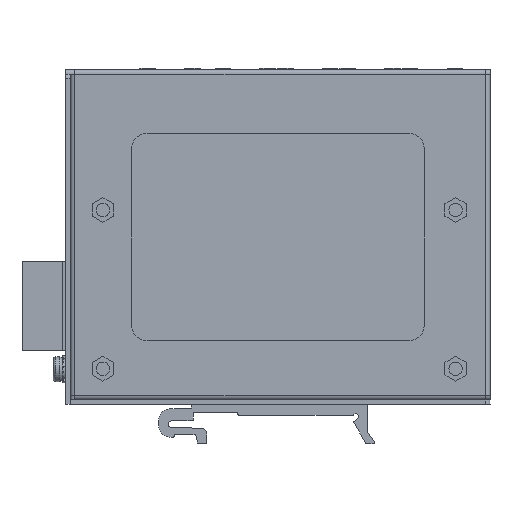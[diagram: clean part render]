
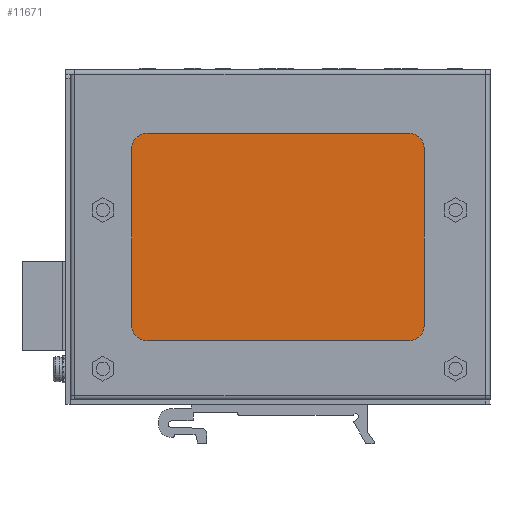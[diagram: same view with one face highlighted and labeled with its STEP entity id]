
A CAD part, front view. The second image highlights one B-rep face of the part: STEP entity #11671.
In plain terms, the highlighted planar face has unit normal (0, -1, 0).
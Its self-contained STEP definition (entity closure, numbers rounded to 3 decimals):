
#279 = PLANE('',#280);
#280 = AXIS2_PLACEMENT_3D('',#281,#282,#283);
#281 = CARTESIAN_POINT('',(-33.25,0.,22.75));
#282 = DIRECTION('',(0.,0.,1.));
#283 = DIRECTION('',(1.,0.,-0.));
#312 = CYLINDRICAL_SURFACE('',#313,3.5);
#313 = AXIS2_PLACEMENT_3D('',#314,#315,#316);
#314 = CARTESIAN_POINT('',(-29.75,7.67,19.25));
#315 = DIRECTION('',(0.,-1.,0.));
#316 = DIRECTION('',(0.,0.,1.));
#340 = PLANE('',#341);
#341 = AXIS2_PLACEMENT_3D('',#342,#343,#344);
#342 = CARTESIAN_POINT('',(-33.25,0.,-23.75));
#343 = DIRECTION('',(-1.,0.,0.));
#344 = DIRECTION('',(0.,0.,1.));
#373 = CYLINDRICAL_SURFACE('',#374,3.5);
#374 = AXIS2_PLACEMENT_3D('',#375,#376,#377);
#375 = CARTESIAN_POINT('',(-29.75,7.67,-20.25));
#376 = DIRECTION('',(0.,-1.,0.));
#377 = DIRECTION('',(-1.,0.,0.));
#401 = PLANE('',#402);
#402 = AXIS2_PLACEMENT_3D('',#403,#404,#405);
#403 = CARTESIAN_POINT('',(32.25,0.,-23.75));
#404 = DIRECTION('',(0.,0.,-1.));
#405 = DIRECTION('',(-1.,0.,0.));
#434 = CYLINDRICAL_SURFACE('',#435,3.5);
#435 = AXIS2_PLACEMENT_3D('',#436,#437,#438);
#436 = CARTESIAN_POINT('',(28.75,7.67,-20.25));
#437 = DIRECTION('',(0.,-1.,0.));
#438 = DIRECTION('',(0.,0.,-1.));
#462 = PLANE('',#463);
#463 = AXIS2_PLACEMENT_3D('',#464,#465,#466);
#464 = CARTESIAN_POINT('',(32.25,0.,22.75));
#465 = DIRECTION('',(1.,0.,0.));
#466 = DIRECTION('',(0.,0.,-1.));
#493 = CYLINDRICAL_SURFACE('',#494,3.5);
#494 = AXIS2_PLACEMENT_3D('',#495,#496,#497);
#495 = CARTESIAN_POINT('',(28.75,7.67,19.25));
#496 = DIRECTION('',(0.,-1.,0.));
#497 = DIRECTION('',(1.,0.,0.));
#11276 = VERTEX_POINT('',#11277);
#11277 = CARTESIAN_POINT('',(28.75,0.5,22.75));
#11298 = EDGE_CURVE('',#11276,#11299,#11301,.T.);
#11299 = VERTEX_POINT('',#11300);
#11300 = CARTESIAN_POINT('',(-29.75,0.5,22.75));
#11301 = SURFACE_CURVE('',#11302,(#11306,#11313),.PCURVE_S1.);
#11302 = LINE('',#11303,#11304);
#11303 = CARTESIAN_POINT('',(28.75,0.5,22.75));
#11304 = VECTOR('',#11305,1.);
#11305 = DIRECTION('',(-1.,0.,0.));
#11306 = PCURVE('',#279,#11307);
#11307 = DEFINITIONAL_REPRESENTATION('',(#11308),#11312);
#11308 = LINE('',#11309,#11310);
#11309 = CARTESIAN_POINT('',(62.,0.5));
#11310 = VECTOR('',#11311,1.);
#11311 = DIRECTION('',(-1.,0.));
#11312 = ( GEOMETRIC_REPRESENTATION_CONTEXT(2) 
PARAMETRIC_REPRESENTATION_CONTEXT() REPRESENTATION_CONTEXT('2D SPACE',''
  ) );
#11313 = PCURVE('',#11314,#11319);
#11314 = PLANE('',#11315);
#11315 = AXIS2_PLACEMENT_3D('',#11316,#11317,#11318);
#11316 = CARTESIAN_POINT('',(-0.5,0.5,-0.5));
#11317 = DIRECTION('',(0.,1.,0.));
#11318 = DIRECTION('',(0.,0.,-1.));
#11319 = DEFINITIONAL_REPRESENTATION('',(#11320),#11324);
#11320 = LINE('',#11321,#11322);
#11321 = CARTESIAN_POINT('',(-23.25,-29.25));
#11322 = VECTOR('',#11323,1.);
#11323 = DIRECTION('',(0.,1.));
#11324 = ( GEOMETRIC_REPRESENTATION_CONTEXT(2) 
PARAMETRIC_REPRESENTATION_CONTEXT() REPRESENTATION_CONTEXT('2D SPACE',''
  ) );
#11352 = VERTEX_POINT('',#11353);
#11353 = CARTESIAN_POINT('',(32.25,0.5,19.25));
#11374 = EDGE_CURVE('',#11276,#11352,#11375,.T.);
#11375 = SURFACE_CURVE('',#11376,(#11381,#11388),.PCURVE_S1.);
#11376 = CIRCLE('',#11377,3.5);
#11377 = AXIS2_PLACEMENT_3D('',#11378,#11379,#11380);
#11378 = CARTESIAN_POINT('',(28.75,0.5,19.25));
#11379 = DIRECTION('',(0.,1.,0.));
#11380 = DIRECTION('',(0.,-0.,1.));
#11381 = PCURVE('',#493,#11382);
#11382 = DEFINITIONAL_REPRESENTATION('',(#11383),#11387);
#11383 = LINE('',#11384,#11385);
#11384 = CARTESIAN_POINT('',(1.571,7.17));
#11385 = VECTOR('',#11386,1.);
#11386 = DIRECTION('',(-1.,0.));
#11387 = ( GEOMETRIC_REPRESENTATION_CONTEXT(2) 
PARAMETRIC_REPRESENTATION_CONTEXT() REPRESENTATION_CONTEXT('2D SPACE',''
  ) );
#11388 = PCURVE('',#11314,#11389);
#11389 = DEFINITIONAL_REPRESENTATION('',(#11390),#11394);
#11390 = CIRCLE('',#11391,3.5);
#11391 = AXIS2_PLACEMENT_2D('',#11392,#11393);
#11392 = CARTESIAN_POINT('',(-19.75,-29.25));
#11393 = DIRECTION('',(-1.,0.));
#11394 = ( GEOMETRIC_REPRESENTATION_CONTEXT(2) 
PARAMETRIC_REPRESENTATION_CONTEXT() REPRESENTATION_CONTEXT('2D SPACE',''
  ) );
#11402 = VERTEX_POINT('',#11403);
#11403 = CARTESIAN_POINT('',(32.25,0.5,-20.25));
#11424 = EDGE_CURVE('',#11402,#11352,#11425,.T.);
#11425 = SURFACE_CURVE('',#11426,(#11430,#11437),.PCURVE_S1.);
#11426 = LINE('',#11427,#11428);
#11427 = CARTESIAN_POINT('',(32.25,0.5,-20.25));
#11428 = VECTOR('',#11429,1.);
#11429 = DIRECTION('',(0.,0.,1.));
#11430 = PCURVE('',#462,#11431);
#11431 = DEFINITIONAL_REPRESENTATION('',(#11432),#11436);
#11432 = LINE('',#11433,#11434);
#11433 = CARTESIAN_POINT('',(43.,0.5));
#11434 = VECTOR('',#11435,1.);
#11435 = DIRECTION('',(-1.,0.));
#11436 = ( GEOMETRIC_REPRESENTATION_CONTEXT(2) 
PARAMETRIC_REPRESENTATION_CONTEXT() REPRESENTATION_CONTEXT('2D SPACE',''
  ) );
#11437 = PCURVE('',#11314,#11438);
#11438 = DEFINITIONAL_REPRESENTATION('',(#11439),#11443);
#11439 = LINE('',#11440,#11441);
#11440 = CARTESIAN_POINT('',(19.75,-32.75));
#11441 = VECTOR('',#11442,1.);
#11442 = DIRECTION('',(-1.,0.));
#11443 = ( GEOMETRIC_REPRESENTATION_CONTEXT(2) 
PARAMETRIC_REPRESENTATION_CONTEXT() REPRESENTATION_CONTEXT('2D SPACE',''
  ) );
#11451 = VERTEX_POINT('',#11452);
#11452 = CARTESIAN_POINT('',(28.75,0.5,-23.75));
#11473 = EDGE_CURVE('',#11402,#11451,#11474,.T.);
#11474 = SURFACE_CURVE('',#11475,(#11480,#11487),.PCURVE_S1.);
#11475 = CIRCLE('',#11476,3.5);
#11476 = AXIS2_PLACEMENT_3D('',#11477,#11478,#11479);
#11477 = CARTESIAN_POINT('',(28.75,0.5,-20.25));
#11478 = DIRECTION('',(-0.,1.,0.));
#11479 = DIRECTION('',(1.,0.,0.));
#11480 = PCURVE('',#434,#11481);
#11481 = DEFINITIONAL_REPRESENTATION('',(#11482),#11486);
#11482 = LINE('',#11483,#11484);
#11483 = CARTESIAN_POINT('',(1.571,7.17));
#11484 = VECTOR('',#11485,1.);
#11485 = DIRECTION('',(-1.,0.));
#11486 = ( GEOMETRIC_REPRESENTATION_CONTEXT(2) 
PARAMETRIC_REPRESENTATION_CONTEXT() REPRESENTATION_CONTEXT('2D SPACE',''
  ) );
#11487 = PCURVE('',#11314,#11488);
#11488 = DEFINITIONAL_REPRESENTATION('',(#11489),#11493);
#11489 = CIRCLE('',#11490,3.5);
#11490 = AXIS2_PLACEMENT_2D('',#11491,#11492);
#11491 = CARTESIAN_POINT('',(19.75,-29.25));
#11492 = DIRECTION('',(0.,-1.));
#11493 = ( GEOMETRIC_REPRESENTATION_CONTEXT(2) 
PARAMETRIC_REPRESENTATION_CONTEXT() REPRESENTATION_CONTEXT('2D SPACE',''
  ) );
#11501 = VERTEX_POINT('',#11502);
#11502 = CARTESIAN_POINT('',(-29.75,0.5,-23.75));
#11523 = EDGE_CURVE('',#11501,#11451,#11524,.T.);
#11524 = SURFACE_CURVE('',#11525,(#11529,#11536),.PCURVE_S1.);
#11525 = LINE('',#11526,#11527);
#11526 = CARTESIAN_POINT('',(-29.75,0.5,-23.75));
#11527 = VECTOR('',#11528,1.);
#11528 = DIRECTION('',(1.,0.,0.));
#11529 = PCURVE('',#401,#11530);
#11530 = DEFINITIONAL_REPRESENTATION('',(#11531),#11535);
#11531 = LINE('',#11532,#11533);
#11532 = CARTESIAN_POINT('',(62.,0.5));
#11533 = VECTOR('',#11534,1.);
#11534 = DIRECTION('',(-1.,0.));
#11535 = ( GEOMETRIC_REPRESENTATION_CONTEXT(2) 
PARAMETRIC_REPRESENTATION_CONTEXT() REPRESENTATION_CONTEXT('2D SPACE',''
  ) );
#11536 = PCURVE('',#11314,#11537);
#11537 = DEFINITIONAL_REPRESENTATION('',(#11538),#11542);
#11538 = LINE('',#11539,#11540);
#11539 = CARTESIAN_POINT('',(23.25,29.25));
#11540 = VECTOR('',#11541,1.);
#11541 = DIRECTION('',(0.,-1.));
#11542 = ( GEOMETRIC_REPRESENTATION_CONTEXT(2) 
PARAMETRIC_REPRESENTATION_CONTEXT() REPRESENTATION_CONTEXT('2D SPACE',''
  ) );
#11550 = VERTEX_POINT('',#11551);
#11551 = CARTESIAN_POINT('',(-33.25,0.5,-20.25));
#11572 = EDGE_CURVE('',#11501,#11550,#11573,.T.);
#11573 = SURFACE_CURVE('',#11574,(#11579,#11586),.PCURVE_S1.);
#11574 = CIRCLE('',#11575,3.5);
#11575 = AXIS2_PLACEMENT_3D('',#11576,#11577,#11578);
#11576 = CARTESIAN_POINT('',(-29.75,0.5,-20.25));
#11577 = DIRECTION('',(0.,1.,0.));
#11578 = DIRECTION('',(0.,0.,-1.));
#11579 = PCURVE('',#373,#11580);
#11580 = DEFINITIONAL_REPRESENTATION('',(#11581),#11585);
#11581 = LINE('',#11582,#11583);
#11582 = CARTESIAN_POINT('',(1.571,7.17));
#11583 = VECTOR('',#11584,1.);
#11584 = DIRECTION('',(-1.,0.));
#11585 = ( GEOMETRIC_REPRESENTATION_CONTEXT(2) 
PARAMETRIC_REPRESENTATION_CONTEXT() REPRESENTATION_CONTEXT('2D SPACE',''
  ) );
#11586 = PCURVE('',#11314,#11587);
#11587 = DEFINITIONAL_REPRESENTATION('',(#11588),#11592);
#11588 = CIRCLE('',#11589,3.5);
#11589 = AXIS2_PLACEMENT_2D('',#11590,#11591);
#11590 = CARTESIAN_POINT('',(19.75,29.25));
#11591 = DIRECTION('',(1.,0.));
#11592 = ( GEOMETRIC_REPRESENTATION_CONTEXT(2) 
PARAMETRIC_REPRESENTATION_CONTEXT() REPRESENTATION_CONTEXT('2D SPACE',''
  ) );
#11600 = VERTEX_POINT('',#11601);
#11601 = CARTESIAN_POINT('',(-33.25,0.5,19.25));
#11622 = EDGE_CURVE('',#11600,#11550,#11623,.T.);
#11623 = SURFACE_CURVE('',#11624,(#11628,#11635),.PCURVE_S1.);
#11624 = LINE('',#11625,#11626);
#11625 = CARTESIAN_POINT('',(-33.25,0.5,19.25));
#11626 = VECTOR('',#11627,1.);
#11627 = DIRECTION('',(0.,0.,-1.));
#11628 = PCURVE('',#340,#11629);
#11629 = DEFINITIONAL_REPRESENTATION('',(#11630),#11634);
#11630 = LINE('',#11631,#11632);
#11631 = CARTESIAN_POINT('',(43.,0.5));
#11632 = VECTOR('',#11633,1.);
#11633 = DIRECTION('',(-1.,0.));
#11634 = ( GEOMETRIC_REPRESENTATION_CONTEXT(2) 
PARAMETRIC_REPRESENTATION_CONTEXT() REPRESENTATION_CONTEXT('2D SPACE',''
  ) );
#11635 = PCURVE('',#11314,#11636);
#11636 = DEFINITIONAL_REPRESENTATION('',(#11637),#11641);
#11637 = LINE('',#11638,#11639);
#11638 = CARTESIAN_POINT('',(-19.75,32.75));
#11639 = VECTOR('',#11640,1.);
#11640 = DIRECTION('',(1.,0.));
#11641 = ( GEOMETRIC_REPRESENTATION_CONTEXT(2) 
PARAMETRIC_REPRESENTATION_CONTEXT() REPRESENTATION_CONTEXT('2D SPACE',''
  ) );
#11649 = EDGE_CURVE('',#11600,#11299,#11650,.T.);
#11650 = SURFACE_CURVE('',#11651,(#11656,#11663),.PCURVE_S1.);
#11651 = CIRCLE('',#11652,3.5);
#11652 = AXIS2_PLACEMENT_3D('',#11653,#11654,#11655);
#11653 = CARTESIAN_POINT('',(-29.75,0.5,19.25));
#11654 = DIRECTION('',(0.,1.,0.));
#11655 = DIRECTION('',(-1.,0.,0.));
#11656 = PCURVE('',#312,#11657);
#11657 = DEFINITIONAL_REPRESENTATION('',(#11658),#11662);
#11658 = LINE('',#11659,#11660);
#11659 = CARTESIAN_POINT('',(1.571,7.17));
#11660 = VECTOR('',#11661,1.);
#11661 = DIRECTION('',(-1.,0.));
#11662 = ( GEOMETRIC_REPRESENTATION_CONTEXT(2) 
PARAMETRIC_REPRESENTATION_CONTEXT() REPRESENTATION_CONTEXT('2D SPACE',''
  ) );
#11663 = PCURVE('',#11314,#11664);
#11664 = DEFINITIONAL_REPRESENTATION('',(#11665),#11669);
#11665 = CIRCLE('',#11666,3.5);
#11666 = AXIS2_PLACEMENT_2D('',#11667,#11668);
#11667 = CARTESIAN_POINT('',(-19.75,29.25));
#11668 = DIRECTION('',(0.,1.));
#11669 = ( GEOMETRIC_REPRESENTATION_CONTEXT(2) 
PARAMETRIC_REPRESENTATION_CONTEXT() REPRESENTATION_CONTEXT('2D SPACE',''
  ) );
#11671 = ADVANCED_FACE('',(#11672),#11314,.F.);
#11672 = FACE_BOUND('',#11673,.F.);
#11673 = EDGE_LOOP('',(#11674,#11675,#11676,#11677,#11678,#11679,#11680,
    #11681));
#11674 = ORIENTED_EDGE('',*,*,#11572,.T.);
#11675 = ORIENTED_EDGE('',*,*,#11622,.F.);
#11676 = ORIENTED_EDGE('',*,*,#11649,.T.);
#11677 = ORIENTED_EDGE('',*,*,#11298,.F.);
#11678 = ORIENTED_EDGE('',*,*,#11374,.T.);
#11679 = ORIENTED_EDGE('',*,*,#11424,.F.);
#11680 = ORIENTED_EDGE('',*,*,#11473,.T.);
#11681 = ORIENTED_EDGE('',*,*,#11523,.F.);
